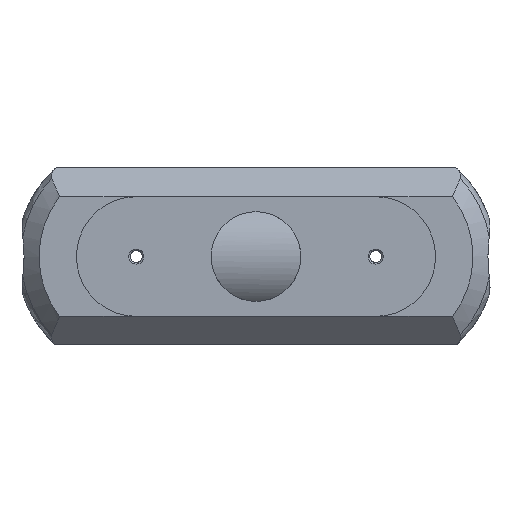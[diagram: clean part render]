
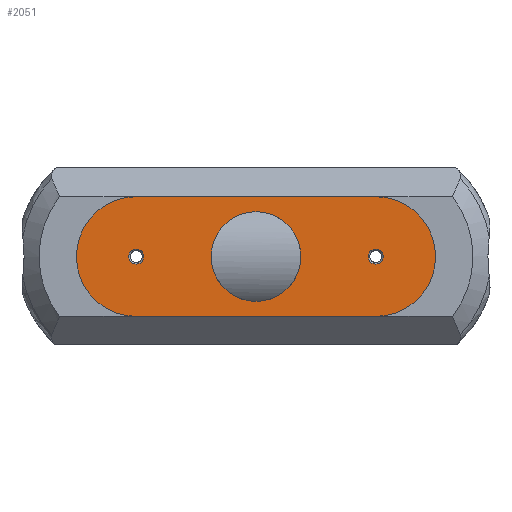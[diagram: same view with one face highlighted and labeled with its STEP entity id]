
A CAD part, front view. The second image highlights one B-rep face of the part: STEP entity #2051.
In plain terms, the highlighted planar face has unit normal (0, -1, 0).
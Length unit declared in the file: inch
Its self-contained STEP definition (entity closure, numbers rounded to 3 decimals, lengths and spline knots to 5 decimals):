
#40=FACE_BOUND('',#367,.T.);
#41=FACE_BOUND('',#368,.T.);
#42=FACE_BOUND('',#369,.T.);
#232=FACE_OUTER_BOUND('',#366,.T.);
#366=EDGE_LOOP('',(#1512,#1513,#1514,#1515));
#367=EDGE_LOOP('',(#1516));
#368=EDGE_LOOP('',(#1517));
#369=EDGE_LOOP('',(#1518));
#531=CIRCLE('',#2243,0.75);
#543=CIRCLE('',#2272,1.);
#544=CIRCLE('',#2273,1.);
#545=CIRCLE('',#2274,0.125);
#546=CIRCLE('',#2275,0.125);
#591=LINE('',#3972,#728);
#592=LINE('',#3976,#729);
#728=VECTOR('',#2651,4.);
#729=VECTOR('',#2654,4.);
#930=VERTEX_POINT('',#3574);
#961=VERTEX_POINT('',#3970);
#962=VERTEX_POINT('',#3971);
#963=VERTEX_POINT('',#3973);
#964=VERTEX_POINT('',#3975);
#965=VERTEX_POINT('',#3978);
#966=VERTEX_POINT('',#3980);
#1157=EDGE_CURVE('',#930,#930,#531,.T.);
#1189=EDGE_CURVE('',#961,#962,#591,.T.);
#1190=EDGE_CURVE('',#962,#963,#543,.T.);
#1191=EDGE_CURVE('',#963,#964,#592,.T.);
#1192=EDGE_CURVE('',#964,#961,#544,.T.);
#1193=EDGE_CURVE('',#965,#965,#545,.F.);
#1194=EDGE_CURVE('',#966,#966,#546,.F.);
#1512=ORIENTED_EDGE('',*,*,#1189,.T.);
#1513=ORIENTED_EDGE('',*,*,#1190,.T.);
#1514=ORIENTED_EDGE('',*,*,#1191,.T.);
#1515=ORIENTED_EDGE('',*,*,#1192,.T.);
#1516=ORIENTED_EDGE('',*,*,#1193,.T.);
#1517=ORIENTED_EDGE('',*,*,#1194,.T.);
#1518=ORIENTED_EDGE('',*,*,#1157,.F.);
#1958=PLANE('',#2271);
#2051=ADVANCED_FACE('',(#232,#40,#41,#42),#1958,.T.);
#2243=AXIS2_PLACEMENT_3D('',#3575,#2593,#2594);
#2271=AXIS2_PLACEMENT_3D('',#3969,#2649,#2650);
#2272=AXIS2_PLACEMENT_3D('',#3974,#2652,#2653);
#2273=AXIS2_PLACEMENT_3D('',#3977,#2655,#2656);
#2274=AXIS2_PLACEMENT_3D('',#3979,#2657,#2658);
#2275=AXIS2_PLACEMENT_3D('',#3981,#2659,#2660);
#2593=DIRECTION('center_axis',(0.,-1.,0.));
#2594=DIRECTION('ref_axis',(1.,0.,0.));
#2649=DIRECTION('center_axis',(0.,-1.,0.));
#2650=DIRECTION('ref_axis',(0.,0.,-1.));
#2651=DIRECTION('',(-1.,0.,0.));
#2652=DIRECTION('center_axis',(0.,-1.,0.));
#2653=DIRECTION('ref_axis',(0.,0.,-1.));
#2654=DIRECTION('',(1.,0.,0.));
#2655=DIRECTION('center_axis',(0.,-1.,0.));
#2656=DIRECTION('ref_axis',(0.,0.,-1.));
#2657=DIRECTION('center_axis',(0.,-1.,0.));
#2658=DIRECTION('ref_axis',(0.,0.,-1.));
#2659=DIRECTION('center_axis',(0.,-1.,0.));
#2660=DIRECTION('ref_axis',(0.,0.,-1.));
#3574=CARTESIAN_POINT('',(0.75,-4.,0.));
#3575=CARTESIAN_POINT('Origin',(0.,-4.,0.));
#3969=CARTESIAN_POINT('Origin',(-2.,-4.,0.));
#3970=CARTESIAN_POINT('',(2.,-4.,1.));
#3971=CARTESIAN_POINT('',(-2.,-4.,1.));
#3972=CARTESIAN_POINT('',(2.,-4.,1.));
#3973=CARTESIAN_POINT('',(-2.,-4.,-1.));
#3974=CARTESIAN_POINT('Origin',(-2.,-4.,0.));
#3975=CARTESIAN_POINT('',(2.,-4.,-1.));
#3976=CARTESIAN_POINT('',(-2.,-4.,-1.));
#3977=CARTESIAN_POINT('Origin',(2.,-4.,0.));
#3978=CARTESIAN_POINT('',(2.,-4.,-0.125));
#3979=CARTESIAN_POINT('Origin',(2.,-4.,0.));
#3980=CARTESIAN_POINT('',(-2.,-4.,-0.125));
#3981=CARTESIAN_POINT('Origin',(-2.,-4.,0.));
